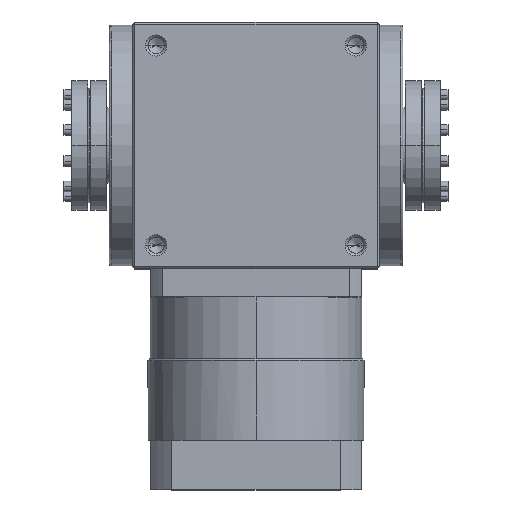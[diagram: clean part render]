
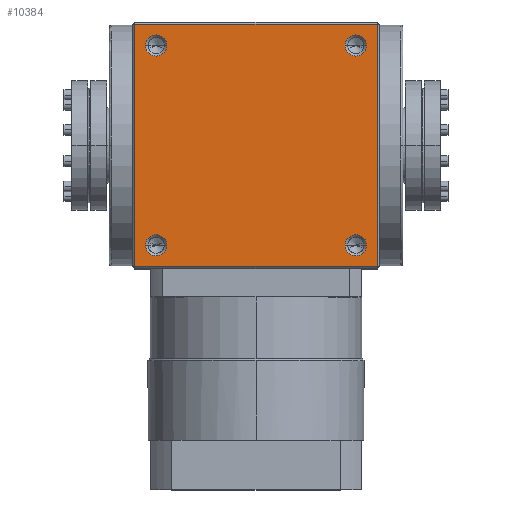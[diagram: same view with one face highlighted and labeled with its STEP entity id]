
A CAD part, top view. The second image highlights one B-rep face of the part: STEP entity #10384.
In plain terms, the highlighted planar face has unit normal (0, 0, 1).
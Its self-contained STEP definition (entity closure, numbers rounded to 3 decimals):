
#208 = ORIENTED_EDGE ( 'NONE', *, *, #5266, .F. ) ;
#300 = CIRCLE ( 'NONE', #25758, 9. ) ;
#450 = DIRECTION ( 'NONE',  ( 0., 0., -1. ) ) ;
#596 = DIRECTION ( 'NONE',  ( 0., 0., 1. ) ) ;
#826 = ORIENTED_EDGE ( 'NONE', *, *, #14343, .F. ) ;
#1050 = VERTEX_POINT ( 'NONE', #18853 ) ;
#1234 = CIRCLE ( 'NONE', #11524, 9. ) ;
#1281 = CARTESIAN_POINT ( 'NONE',  ( 76., 85., 105. ) ) ;
#1820 = CARTESIAN_POINT ( 'NONE',  ( 103., 103., 105. ) ) ;
#2127 = DIRECTION ( 'NONE',  ( 0., 0., 1. ) ) ;
#2486 = EDGE_CURVE ( 'NONE', #12419, #5630, #25239, .T. ) ;
#2881 = DIRECTION ( 'NONE',  ( 0., 0., 1. ) ) ;
#3931 = ORIENTED_EDGE ( 'NONE', *, *, #11732, .F. ) ;
#4059 = DIRECTION ( 'NONE',  ( 0., 0., 1. ) ) ;
#4403 = CARTESIAN_POINT ( 'NONE',  ( 103., -103., 105. ) ) ;
#4798 = EDGE_CURVE ( 'NONE', #5630, #12419, #12831, .T. ) ;
#4893 = ORIENTED_EDGE ( 'NONE', *, *, #20279, .F. ) ;
#5192 = CARTESIAN_POINT ( 'NONE',  ( 103., -103., 105. ) ) ;
#5266 = EDGE_CURVE ( 'NONE', #13844, #18454, #10317, .T. ) ;
#5301 = VERTEX_POINT ( 'NONE', #6171 ) ;
#5413 = ORIENTED_EDGE ( 'NONE', *, *, #4798, .F. ) ;
#5546 = VERTEX_POINT ( 'NONE', #13185 ) ;
#5586 = AXIS2_PLACEMENT_3D ( 'NONE', #14316, #2127, #16405 ) ;
#5630 = VERTEX_POINT ( 'NONE', #1281 ) ;
#5649 = DIRECTION ( 'NONE',  ( 0., 0., 1. ) ) ;
#5938 = DIRECTION ( 'NONE',  ( 0., 1., 0. ) ) ;
#5998 = DIRECTION ( 'NONE',  ( 1., 0., 0. ) ) ;
#6144 = DIRECTION ( 'NONE',  ( 0., -1., 0. ) ) ;
#6171 = CARTESIAN_POINT ( 'NONE',  ( 94., -85., 105. ) ) ;
#6447 = CARTESIAN_POINT ( 'NONE',  ( 85., -85., 105. ) ) ;
#6613 = ORIENTED_EDGE ( 'NONE', *, *, #21139, .T. ) ;
#7001 = LINE ( 'NONE', #12239, #7005 ) ;
#7005 = VECTOR ( 'NONE', #6144, 1000. ) ;
#7186 = ORIENTED_EDGE ( 'NONE', *, *, #7996, .F. ) ;
#7730 = AXIS2_PLACEMENT_3D ( 'NONE', #17849, #5649, #19906 ) ;
#7996 = EDGE_CURVE ( 'NONE', #18240, #5301, #300, .T. ) ;
#8039 = EDGE_CURVE ( 'NONE', #5301, #18240, #1234, .T. ) ;
#8515 = ORIENTED_EDGE ( 'NONE', *, *, #26301, .F. ) ;
#8533 = DIRECTION ( 'NONE',  ( 1., 0., 0. ) ) ;
#9042 = CARTESIAN_POINT ( 'NONE',  ( -76., 85., 105. ) ) ;
#9140 = CARTESIAN_POINT ( 'NONE',  ( -76., -85., 105. ) ) ;
#9424 = EDGE_CURVE ( 'NONE', #5546, #9618, #20478, .T. ) ;
#9513 = VECTOR ( 'NONE', #5998, 1000. ) ;
#9618 = VERTEX_POINT ( 'NONE', #1820 ) ;
#10173 = AXIS2_PLACEMENT_3D ( 'NONE', #16316, #4059, #18361 ) ;
#10199 = DIRECTION ( 'NONE',  ( 0., 0., 1. ) ) ;
#10282 = CARTESIAN_POINT ( 'NONE',  ( 85., 85., 105. ) ) ;
#10317 = CIRCLE ( 'NONE', #16558, 9. ) ;
#10384 = ADVANCED_FACE ( 'NONE', ( #14947, #15089, #14872, #14831, #14805 ), #18689, .F. ) ;
#10414 = CARTESIAN_POINT ( 'NONE',  ( 94., 85., 105. ) ) ;
#11030 = CARTESIAN_POINT ( 'NONE',  ( 76., -85., 105. ) ) ;
#11068 = CARTESIAN_POINT ( 'NONE',  ( 0., 103., 105. ) ) ;
#11524 = AXIS2_PLACEMENT_3D ( 'NONE', #12726, #596, #14793 ) ;
#11732 = EDGE_CURVE ( 'NONE', #9618, #13381, #7001, .T. ) ;
#12239 = CARTESIAN_POINT ( 'NONE',  ( 103., 0., 105. ) ) ;
#12262 = DIRECTION ( 'NONE',  ( 1., 0., 0. ) ) ;
#12419 = VERTEX_POINT ( 'NONE', #10414 ) ;
#12726 = CARTESIAN_POINT ( 'NONE',  ( 85., -85., 105. ) ) ;
#12831 = CIRCLE ( 'NONE', #13981, 9. ) ;
#13128 = DIRECTION ( 'NONE',  ( 1., 0., 0. ) ) ;
#13185 = CARTESIAN_POINT ( 'NONE',  ( -103., 103., 105. ) ) ;
#13381 = VERTEX_POINT ( 'NONE', #5192 ) ;
#13844 = VERTEX_POINT ( 'NONE', #9140 ) ;
#13929 = LINE ( 'NONE', #20287, #9513 ) ;
#13981 = AXIS2_PLACEMENT_3D ( 'NONE', #10282, #24568, #12262 ) ;
#14092 = CIRCLE ( 'NONE', #5586, 9. ) ;
#14316 = CARTESIAN_POINT ( 'NONE',  ( -85., 85., 105. ) ) ;
#14343 = EDGE_CURVE ( 'NONE', #25988, #14930, #21793, .T. ) ;
#14502 = AXIS2_PLACEMENT_3D ( 'NONE', #15102, #2881, #17160 ) ;
#14647 = DIRECTION ( 'NONE',  ( -1., 0., 0. ) ) ;
#14793 = DIRECTION ( 'NONE',  ( 1., 0., 0. ) ) ;
#14805 = FACE_OUTER_BOUND ( 'NONE', #18610, .T. ) ;
#14813 = ORIENTED_EDGE ( 'NONE', *, *, #2486, .F. ) ;
#14831 = FACE_BOUND ( 'NONE', #21248, .T. ) ;
#14872 = FACE_BOUND ( 'NONE', #25692, .T. ) ;
#14930 = VERTEX_POINT ( 'NONE', #9042 ) ;
#14947 = FACE_BOUND ( 'NONE', #22475, .T. ) ;
#15089 = FACE_BOUND ( 'NONE', #23157, .T. ) ;
#15102 = CARTESIAN_POINT ( 'NONE',  ( -85., 85., 105. ) ) ;
#16316 = CARTESIAN_POINT ( 'NONE',  ( 85., 85., 105. ) ) ;
#16405 = DIRECTION ( 'NONE',  ( 1., 0., 0. ) ) ;
#16558 = AXIS2_PLACEMENT_3D ( 'NONE', #22440, #10199, #24481 ) ;
#17097 = LINE ( 'NONE', #26293, #22216 ) ;
#17160 = DIRECTION ( 'NONE',  ( 1., 0., 0. ) ) ;
#17773 = ORIENTED_EDGE ( 'NONE', *, *, #25256, .F. ) ;
#17849 = CARTESIAN_POINT ( 'NONE',  ( -85., -85., 105. ) ) ;
#18240 = VERTEX_POINT ( 'NONE', #11030 ) ;
#18361 = DIRECTION ( 'NONE',  ( 1., 0., 0. ) ) ;
#18454 = VERTEX_POINT ( 'NONE', #24109 ) ;
#18610 = EDGE_LOOP ( 'NONE', ( #6613, #3931, #25454, #17773 ) ) ;
#18689 = PLANE ( 'NONE',  #26321 ) ;
#18853 = CARTESIAN_POINT ( 'NONE',  ( -103., -103., 105. ) ) ;
#19906 = DIRECTION ( 'NONE',  ( 1., 0., 0. ) ) ;
#19936 = CIRCLE ( 'NONE', #7730, 9. ) ;
#20279 = EDGE_CURVE ( 'NONE', #18454, #13844, #19936, .T. ) ;
#20287 = CARTESIAN_POINT ( 'NONE',  ( 0., -103., 105. ) ) ;
#20401 = VECTOR ( 'NONE', #13128, 1000. ) ;
#20478 = LINE ( 'NONE', #11068, #20401 ) ;
#20717 = DIRECTION ( 'NONE',  ( 0., 0., 1. ) ) ;
#21139 = EDGE_CURVE ( 'NONE', #1050, #13381, #13929, .T. ) ;
#21248 = EDGE_LOOP ( 'NONE', ( #25240, #7186 ) ) ;
#21445 = CARTESIAN_POINT ( 'NONE',  ( -94., 85., 105. ) ) ;
#21793 = CIRCLE ( 'NONE', #14502, 9. ) ;
#22216 = VECTOR ( 'NONE', #5938, 1000. ) ;
#22440 = CARTESIAN_POINT ( 'NONE',  ( -85., -85., 105. ) ) ;
#22475 = EDGE_LOOP ( 'NONE', ( #8515, #826 ) ) ;
#23157 = EDGE_LOOP ( 'NONE', ( #14813, #5413 ) ) ;
#24109 = CARTESIAN_POINT ( 'NONE',  ( -94., -85., 105. ) ) ;
#24481 = DIRECTION ( 'NONE',  ( 1., 0., 0. ) ) ;
#24568 = DIRECTION ( 'NONE',  ( 0., 0., 1. ) ) ;
#25239 = CIRCLE ( 'NONE', #10173, 9. ) ;
#25240 = ORIENTED_EDGE ( 'NONE', *, *, #8039, .F. ) ;
#25256 = EDGE_CURVE ( 'NONE', #1050, #5546, #17097, .T. ) ;
#25454 = ORIENTED_EDGE ( 'NONE', *, *, #9424, .F. ) ;
#25692 = EDGE_LOOP ( 'NONE', ( #208, #4893 ) ) ;
#25758 = AXIS2_PLACEMENT_3D ( 'NONE', #6447, #20717, #8533 ) ;
#25988 = VERTEX_POINT ( 'NONE', #21445 ) ;
#26293 = CARTESIAN_POINT ( 'NONE',  ( -103., 0., 105. ) ) ;
#26301 = EDGE_CURVE ( 'NONE', #14930, #25988, #14092, .T. ) ;
#26321 = AXIS2_PLACEMENT_3D ( 'NONE', #4403, #450, #14647 ) ;
